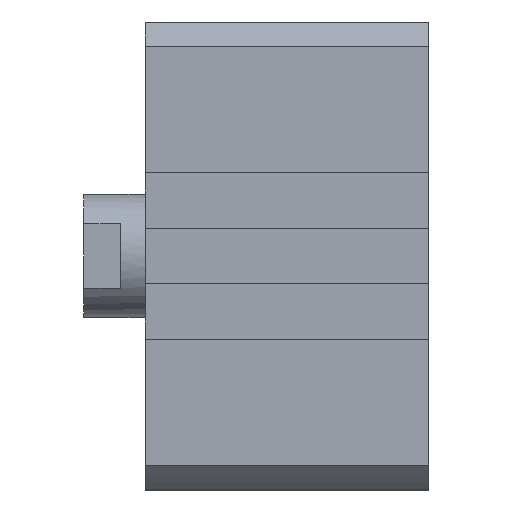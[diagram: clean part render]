
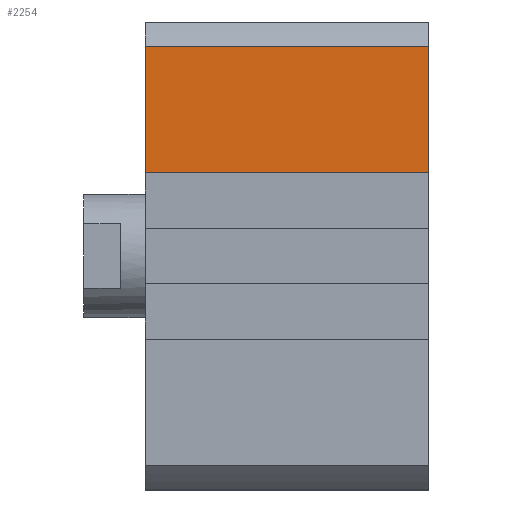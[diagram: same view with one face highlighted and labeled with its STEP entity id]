
A CAD part, left-side view. The second image highlights one B-rep face of the part: STEP entity #2254.
In plain terms, the highlighted planar face has unit normal (-1, 0, 0).
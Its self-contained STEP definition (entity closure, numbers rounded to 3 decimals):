
#62 = ORIENTED_EDGE ( 'NONE', *, *, #332, .F. ) ;
#72 = DIRECTION ( 'NONE',  ( -1., 0., 0. ) ) ;
#132 = LINE ( 'NONE', #2525, #1176 ) ;
#155 = DIRECTION ( 'NONE',  ( 0., 1., 0. ) ) ;
#332 = EDGE_CURVE ( 'NONE', #783, #3287, #1450, .T. ) ;
#380 = EDGE_CURVE ( 'NONE', #1457, #783, #1945, .T. ) ;
#621 = CARTESIAN_POINT ( 'NONE',  ( -38., -46., 34.015 ) ) ;
#772 = CARTESIAN_POINT ( 'NONE',  ( -38., 0., 0. ) ) ;
#783 = VERTEX_POINT ( 'NONE', #2296 ) ;
#800 = VECTOR ( 'NONE', #1007, 1000. ) ;
#820 = CARTESIAN_POINT ( 'NONE',  ( -38., -46., 13.5 ) ) ;
#1007 = DIRECTION ( 'NONE',  ( 0., 0., 1. ) ) ;
#1063 = CARTESIAN_POINT ( 'NONE',  ( -38., -46., 13.5 ) ) ;
#1152 = AXIS2_PLACEMENT_3D ( 'NONE', #2447, #72, #2676 ) ;
#1155 = VERTEX_POINT ( 'NONE', #621 ) ;
#1158 = ORIENTED_EDGE ( 'NONE', *, *, #3341, .T. ) ;
#1165 = EDGE_LOOP ( 'NONE', ( #62, #1809, #1158, #1633 ) ) ;
#1176 = VECTOR ( 'NONE', #155, 1000. ) ;
#1315 = CARTESIAN_POINT ( 'NONE',  ( -38., 0., 34.015 ) ) ;
#1364 = VECTOR ( 'NONE', #3151, 1000. ) ;
#1450 = LINE ( 'NONE', #772, #2929 ) ;
#1457 = VERTEX_POINT ( 'NONE', #1063 ) ;
#1630 = PLANE ( 'NONE',  #1152 ) ;
#1633 = ORIENTED_EDGE ( 'NONE', *, *, #2945, .T. ) ;
#1778 = FACE_OUTER_BOUND ( 'NONE', #1165, .T. ) ;
#1809 = ORIENTED_EDGE ( 'NONE', *, *, #380, .F. ) ;
#1815 = LINE ( 'NONE', #3103, #800 ) ;
#1945 = LINE ( 'NONE', #820, #1364 ) ;
#2254 = ADVANCED_FACE ( 'NONE', ( #1778 ), #1630, .T. ) ;
#2296 = CARTESIAN_POINT ( 'NONE',  ( -38., 0., 13.5 ) ) ;
#2447 = CARTESIAN_POINT ( 'NONE',  ( -38., -46., 0. ) ) ;
#2525 = CARTESIAN_POINT ( 'NONE',  ( -38., -46., 34.015 ) ) ;
#2676 = DIRECTION ( 'NONE',  ( 0., 0., 1. ) ) ;
#2929 = VECTOR ( 'NONE', #3101, 1000. ) ;
#2945 = EDGE_CURVE ( 'NONE', #1155, #3287, #132, .T. ) ;
#3101 = DIRECTION ( 'NONE',  ( 0., 0., 1. ) ) ;
#3103 = CARTESIAN_POINT ( 'NONE',  ( -38., -46., 0. ) ) ;
#3151 = DIRECTION ( 'NONE',  ( 0., 1., 0. ) ) ;
#3287 = VERTEX_POINT ( 'NONE', #1315 ) ;
#3341 = EDGE_CURVE ( 'NONE', #1457, #1155, #1815, .T. ) ;
